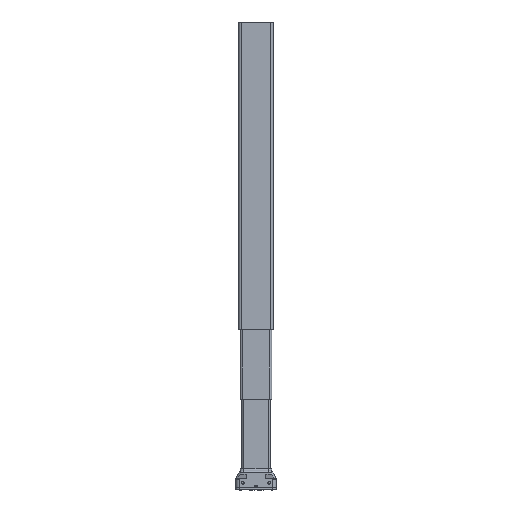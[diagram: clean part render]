
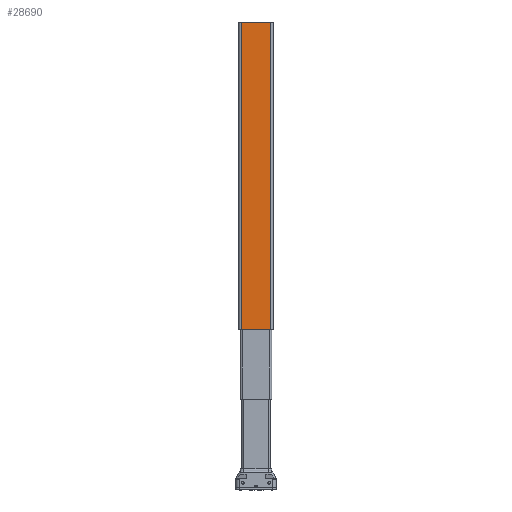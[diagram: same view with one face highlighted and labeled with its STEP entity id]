
A CAD part, top view. The second image highlights one B-rep face of the part: STEP entity #28690.
In plain terms, the highlighted planar face has unit normal (0, 0, 1).
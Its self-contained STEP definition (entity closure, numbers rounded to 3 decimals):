
#7892=DIRECTION('',(1.,0.,0.));
#7893=VECTOR('',#7892,70.);
#7894=CARTESIAN_POINT('',(-35.,331.,25.));
#7895=LINE('',#7894,#7893);
#10416=DIRECTION('',(0.,-1.,0.));
#10417=VECTOR('',#10416,723.);
#10418=CARTESIAN_POINT('',(35.,1054.,25.));
#10419=LINE('',#10418,#10417);
#10420=DIRECTION('',(0.,-1.,0.));
#10421=VECTOR('',#10420,723.);
#10422=CARTESIAN_POINT('',(-35.,1054.,25.));
#10423=LINE('',#10422,#10421);
#10424=DIRECTION('',(1.,0.,0.));
#10425=VECTOR('',#10424,70.);
#10426=CARTESIAN_POINT('',(-35.,1054.,25.));
#10427=LINE('',#10426,#10425);
#14224=CARTESIAN_POINT('',(-35.,1054.,25.));
#14225=VERTEX_POINT('',#14224);
#14226=CARTESIAN_POINT('',(35.,1054.,25.));
#14228=VERTEX_POINT('',#14226);
#14680=CARTESIAN_POINT('',(-35.,331.,25.));
#14681=VERTEX_POINT('',#14680);
#14682=CARTESIAN_POINT('',(35.,331.,25.));
#14684=VERTEX_POINT('',#14682);
#28678=CARTESIAN_POINT('',(-35.,1054.,25.));
#28679=DIRECTION('',(0.,0.,1.));
#28680=DIRECTION('',(1.,0.,0.));
#28681=AXIS2_PLACEMENT_3D('',#28678,#28679,#28680);
#28682=PLANE('',#28681);
#28683=ORIENTED_EDGE('',*,*,#24974,.F.);
#28685=ORIENTED_EDGE('',*,*,#28684,.F.);
#28686=ORIENTED_EDGE('',*,*,#25551,.T.);
#28687=ORIENTED_EDGE('',*,*,#28673,.T.);
#28688=EDGE_LOOP('',(#28683,#28685,#28686,#28687));
#28689=FACE_OUTER_BOUND('',#28688,.F.);
#24974=EDGE_CURVE('',#14681,#14684,#7895,.T.);
#25551=EDGE_CURVE('',#14225,#14228,#10427,.T.);
#28673=EDGE_CURVE('',#14228,#14684,#10419,.T.);
#28684=EDGE_CURVE('',#14225,#14681,#10423,.T.);
#28690=ADVANCED_FACE('',(#28689),#28682,.T.);
